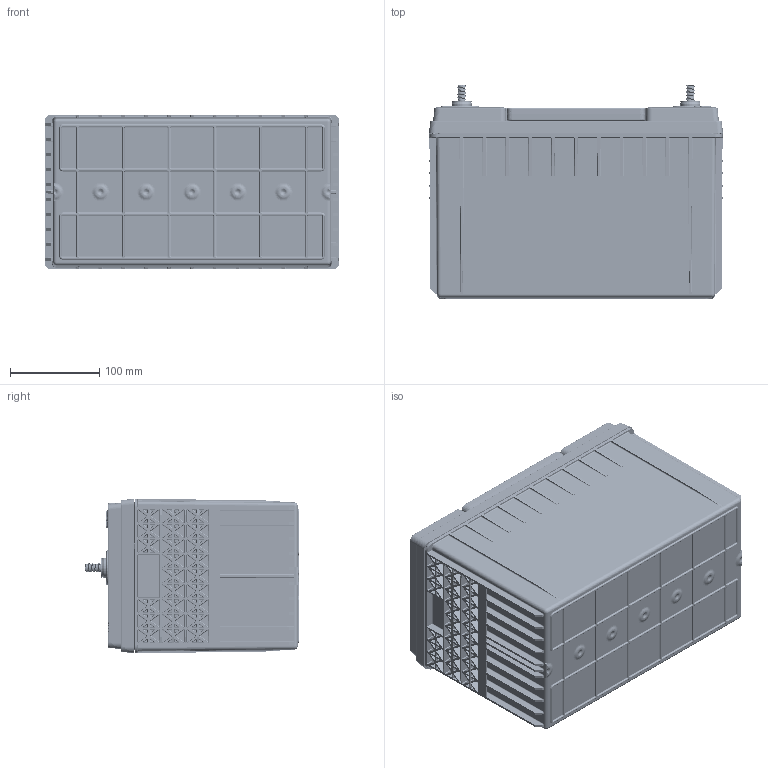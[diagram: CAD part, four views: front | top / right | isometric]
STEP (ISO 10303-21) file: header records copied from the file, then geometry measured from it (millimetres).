
FILE_DESCRIPTION (( 'STEP AP203' ), '1' );
FILE_NAME ('ODX-AGM31R.STEP', '2024-02-26T19:53:24', ( '' ), ( '' ), 'SwSTEP 2.0', 'SolidWorks 2022', '' );
FILE_SCHEMA (( 'CONFIG_CONTROL_DESIGN' ));
Products named in the file (1): ODX-AGM31R
Bounding box: 329.95 x 239.68 x 172.41 mm (x, y, z)
Volume: 1892971.9 mm3; surface area: 1281445 mm2
Topology: 16 solids, 16 shells, 12420 faces, 31173 edges, 17362 vertices
Faces by surface type: cylinder 4426, plane 3360, bspline 2960, torus 721, sphere 520, cone 433
Full cylindrical faces by diameter (mm): 7.62 x2, 7.937 x2, 8.001 x6, 12.192 x4, 15.875 x2, 17.983 x2, 18.085 x2, 19.05 x2, 22.047 x1, 22.225 x6, 22.622 x2, 22.86 x2, 23.813 x12, 26.238 x2, 30.956 x2
Entity records: 415543 total; most frequent: CARTESIAN_POINT 163287, ORIENTED_EDGE 58624, DIRECTION 46984, EDGE_CURVE 29312, VERTEX_POINT 17286, AXIS2_PLACEMENT_3D 16965, LINE 13054, VECTOR 13054
